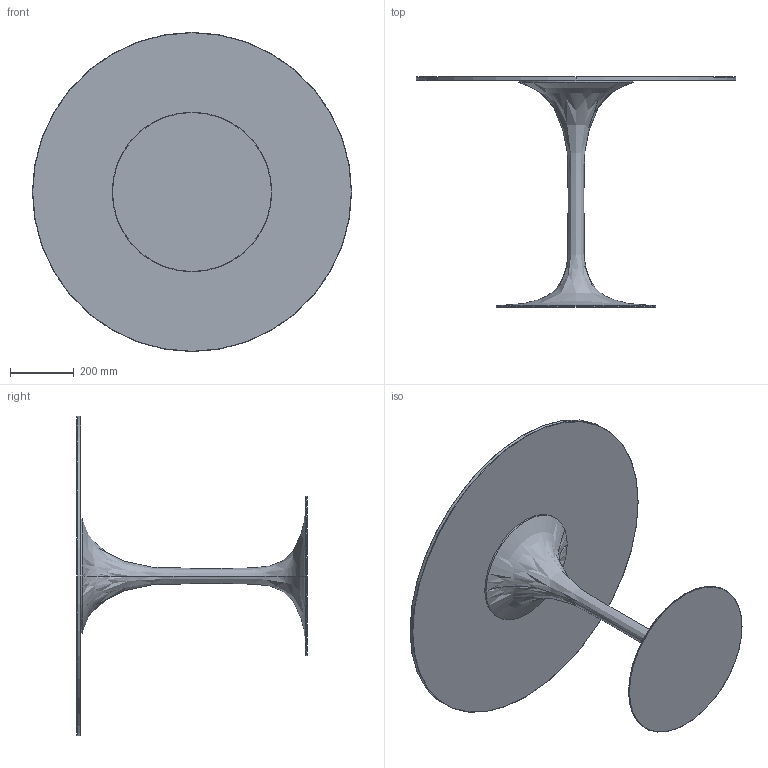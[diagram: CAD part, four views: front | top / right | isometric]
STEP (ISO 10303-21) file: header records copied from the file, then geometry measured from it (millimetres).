
FILE_DESCRIPTION (( 'STEP AP203' ), '1' );
FILE_NAME ('SATURNO_H72_DIAM100.STEP', '2014-12-22T10:31:00', ( '' ), ( '' ), 'SwSTEP 2.0', 'SolidWorks 2014', '' );
FILE_SCHEMA (( 'CONFIG_CONTROL_DESIGN' ));
Length unit declared in the file: millimetre
Products named in the file (1): SATURNO_H72_DIAM100
Bounding box: 1000 x 722 x 1000 mm (x, y, z)
Volume: 18434345.3 mm3; surface area: 2329540.2 mm2
Topology: 2 solids, 2 shells, 20 faces, 40 edges, 24 vertices
Faces by surface type: torus 8, cylinder 6, plane 4, bspline 2
Entity records: 701 total; most frequent: CARTESIAN_POINT 191, DIRECTION 108, ORIENTED_EDGE 80, AXIS2_PLACEMENT_3D 51, EDGE_CURVE 40, CIRCLE 32, VERTEX_POINT 24, FACE_OUTER_BOUND 20
